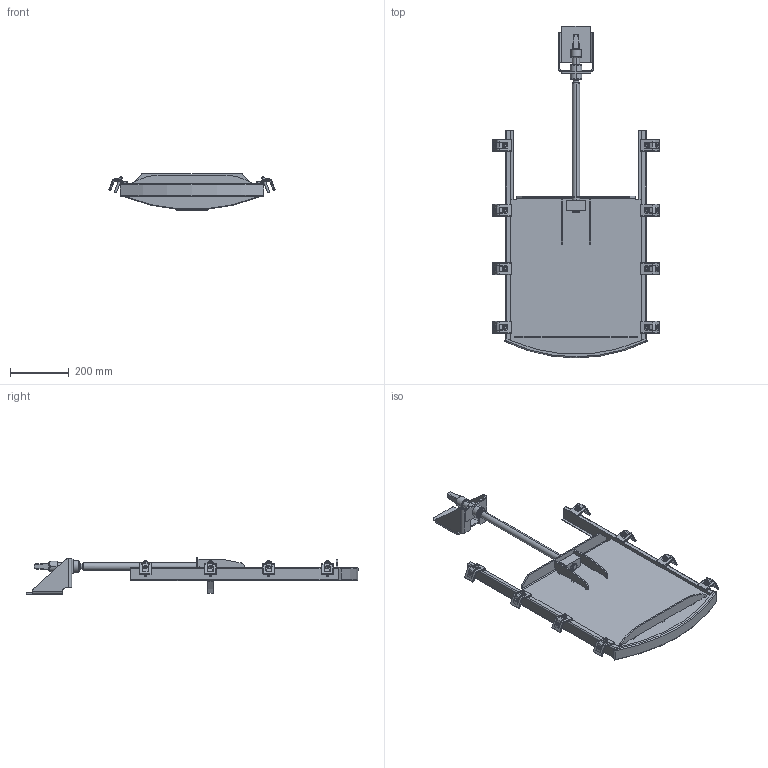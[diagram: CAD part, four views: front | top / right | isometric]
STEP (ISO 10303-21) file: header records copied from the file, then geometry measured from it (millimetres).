
FILE_DESCRIPTION (( 'STEP AP214' ), '1' );
FILE_NAME ('LW 400 Schacht1200 betoniert.STEP', '2022-05-20T09:07:09', ( '' ), ( '' ), 'SwSTEP 2.0', 'SolidWorks 2021', '' );
FILE_SCHEMA (( 'AUTOMOTIVE_DESIGN' ));
Length unit declared in the file: millimetre
Products named in the file (1): LW 400 Schacht1200 betoniert
Bounding box: 569.2 x 1135 x 123.95 mm (x, y, z)
Volume: 3890637.2 mm3; surface area: 1159411.5 mm2
Topology: 1 solids, 9 shells, 1345 faces, 3206 edges, 1806 vertices
Faces by surface type: cylinder 536, plane 389, cone 118, sphere 112, torus 104, bspline 86
Entity records: 56617 total; most frequent: CARTESIAN_POINT 11880, DIRECTION 6458, ORIENTED_EDGE 6180, EDGE_CURVE 3090, AXIS2_PLACEMENT_3D 2548, VERTEX_POINT 1790, EDGE_LOOP 1442, LINE 1362
